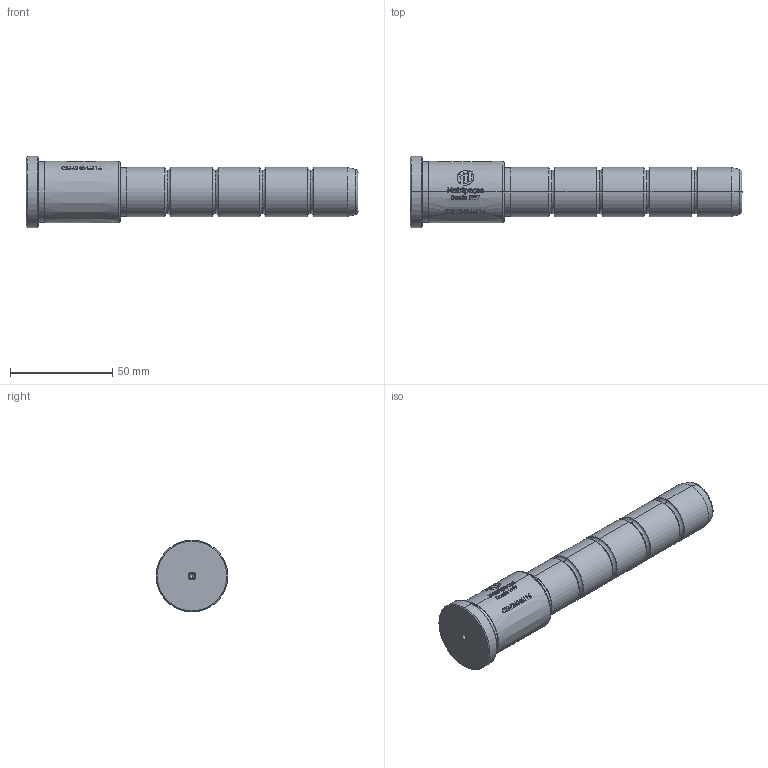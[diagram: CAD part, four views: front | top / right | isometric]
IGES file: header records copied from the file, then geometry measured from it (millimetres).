
Start section: SolidWorks IGES file using analytic representation for surfaces
Global section: file name: E:\1.TRIVECTOR\Clientes\MATRIPEÇAS\PEÇAS_CATALOGO_SITE\4.CEM - COLUNA CONJ. EXTRATOR (CATÁLOGO)\CEM24046116.IGS; native system: SolidWorks 2024; preprocessor: SolidWorks 2024; author: Gabriel Techio; date: 260901.165901; units: millimetre
Bounding box: 162 x 35 x 35 mm (x, y, z)
Surface area: 15487 mm2 (no closed solid volume)
Topology: 0 solids, 0 shells, 512 faces, 5045 edges, 5041 vertices
Faces by surface type: bspline 409, revolution 103
